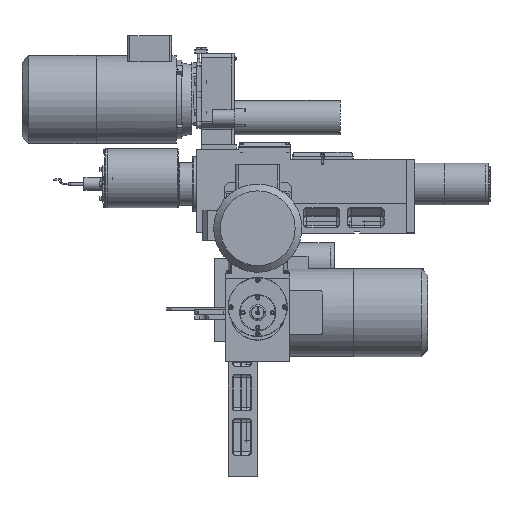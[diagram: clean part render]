
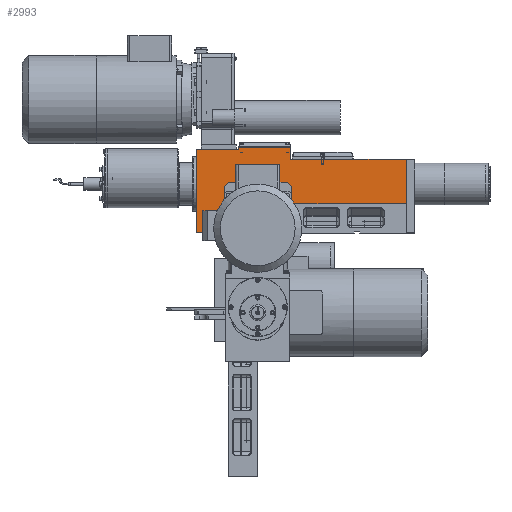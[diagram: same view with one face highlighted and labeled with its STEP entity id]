
A CAD part, front view. The second image highlights one B-rep face of the part: STEP entity #2993.
In plain terms, the highlighted planar face has unit normal (0, -1, 0).
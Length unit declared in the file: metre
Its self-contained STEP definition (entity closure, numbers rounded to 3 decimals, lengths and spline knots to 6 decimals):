
#2993 = ADVANCED_FACE( '', ( #4743 ), #4744, .T. );
#4743 = FACE_OUTER_BOUND( '', #9010, .T. );
#4744 = PLANE( '', #9011 );
#9010 = EDGE_LOOP( '', ( #14669, #14670, #14671, #14672, #14673, #14674, #14675, #14676, #14677, #14678 ) );
#9011 = AXIS2_PLACEMENT_3D( '', #14679, #14680, #14681 );
#14669 = ORIENTED_EDGE( '', *, *, #18904, .T. );
#14670 = ORIENTED_EDGE( '', *, *, #18905, .T. );
#14671 = ORIENTED_EDGE( '', *, *, #18906, .F. );
#14672 = ORIENTED_EDGE( '', *, *, #18907, .T. );
#14673 = ORIENTED_EDGE( '', *, *, #18908, .T. );
#14674 = ORIENTED_EDGE( '', *, *, #18895, .T. );
#14675 = ORIENTED_EDGE( '', *, *, #18909, .T. );
#14676 = ORIENTED_EDGE( '', *, *, #18887, .T. );
#14677 = ORIENTED_EDGE( '', *, *, #18910, .T. );
#14678 = ORIENTED_EDGE( '', *, *, #18911, .T. );
#14679 = CARTESIAN_POINT( '', ( 0.337, -0.003889, 0. ) );
#14680 = DIRECTION( '', ( 0., -1., 0. ) );
#14681 = DIRECTION( '', ( 1., 0., 0. ) );
#18887 = EDGE_CURVE( '', #21667, #21665, #21668, .T. );
#18895 = EDGE_CURVE( '', #21682, #21680, #21683, .T. );
#18904 = EDGE_CURVE( '', #21697, #21698, #21699, .T. );
#18905 = EDGE_CURVE( '', #21698, #21700, #21701, .T. );
#18906 = EDGE_CURVE( '', #21702, #21700, #21703, .T. );
#18907 = EDGE_CURVE( '', #21702, #21704, #21705, .T. );
#18908 = EDGE_CURVE( '', #21704, #21682, #21706, .T. );
#18909 = EDGE_CURVE( '', #21680, #21667, #21707, .T. );
#18910 = EDGE_CURVE( '', #21665, #21708, #21709, .T. );
#18911 = EDGE_CURVE( '', #21708, #21697, #21710, .T. );
#21665 = VERTEX_POINT( '', #27221 );
#21667 = VERTEX_POINT( '', #27224 );
#21668 = LINE( '', #27225, #27226 );
#21680 = VERTEX_POINT( '', #27244 );
#21682 = VERTEX_POINT( '', #27247 );
#21683 = LINE( '', #27248, #27249 );
#21697 = VERTEX_POINT( '', #27271 );
#21698 = VERTEX_POINT( '', #27272 );
#21699 = LINE( '', #27273, #27274 );
#21700 = VERTEX_POINT( '', #27275 );
#21701 = LINE( '', #27276, #27277 );
#21702 = VERTEX_POINT( '', #27278 );
#21703 = LINE( '', #27279, #27280 );
#21704 = VERTEX_POINT( '', #27281 );
#21705 = LINE( '', #27282, #27283 );
#21706 = LINE( '', #27284, #27285 );
#21707 = LINE( '', #27286, #27287 );
#21708 = VERTEX_POINT( '', #27288 );
#21709 = LINE( '', #27289, #27290 );
#21710 = LINE( '', #27291, #27292 );
#27221 = CARTESIAN_POINT( '', ( 0.102, -0.003889, 0.115 ) );
#27224 = CARTESIAN_POINT( '', ( 0.102, -0.003889, 0.09 ) );
#27225 = CARTESIAN_POINT( '', ( 0.102, -0.003889, 0.09 ) );
#27226 = VECTOR( '', #31181, 1. );
#27244 = CARTESIAN_POINT( '', ( 0.337, -0.003889, 0.09 ) );
#27247 = CARTESIAN_POINT( '', ( 0.337, -0.003889, 0. ) );
#27248 = CARTESIAN_POINT( '', ( 0.337, -0.003889, 0. ) );
#27249 = VECTOR( '', #31189, 1. );
#27271 = CARTESIAN_POINT( '', ( -0.003, -0.003889, 0.11 ) );
#27272 = CARTESIAN_POINT( '', ( -0.088, -0.003889, 0.11 ) );
#27273 = CARTESIAN_POINT( '', ( 0.14575, -0.003889, 0.11 ) );
#27274 = VECTOR( '', #31198, 1. );
#27275 = CARTESIAN_POINT( '', ( -0.088, -0.003889, -0.059 ) );
#27276 = CARTESIAN_POINT( '', ( -0.088, -0.003889, -0.059 ) );
#27277 = VECTOR( '', #31199, 1. );
#27278 = CARTESIAN_POINT( '', ( -0.005, -0.003889, -0.059 ) );
#27279 = CARTESIAN_POINT( '', ( -0.005, -0.003889, -0.059 ) );
#27280 = VECTOR( '', #31200, 1. );
#27281 = CARTESIAN_POINT( '', ( -0.005, -0.003889, 0. ) );
#27282 = CARTESIAN_POINT( '', ( -0.005, -0.003889, -0.059 ) );
#27283 = VECTOR( '', #31201, 1. );
#27284 = CARTESIAN_POINT( '', ( -0.005, -0.003889, 0. ) );
#27285 = VECTOR( '', #31202, 1. );
#27286 = CARTESIAN_POINT( '', ( -0.005, -0.003889, 0.09 ) );
#27287 = VECTOR( '', #31203, 1. );
#27288 = CARTESIAN_POINT( '', ( -0.003, -0.003889, 0.115 ) );
#27289 = CARTESIAN_POINT( '', ( -0.005, -0.003889, 0.115 ) );
#27290 = VECTOR( '', #31204, 1. );
#27291 = CARTESIAN_POINT( '', ( -0.003, -0.003889, 0.058735 ) );
#27292 = VECTOR( '', #31205, 1. );
#31181 = DIRECTION( '', ( 0., 0., 1. ) );
#31189 = DIRECTION( '', ( 0., 0., 1. ) );
#31198 = DIRECTION( '', ( -1., 0., 0. ) );
#31199 = DIRECTION( '', ( 0., 0., -1. ) );
#31200 = DIRECTION( '', ( -1., 0., 0. ) );
#31201 = DIRECTION( '', ( 0., 0., 1. ) );
#31202 = DIRECTION( '', ( 1., 0., 0. ) );
#31203 = DIRECTION( '', ( -1., 0., 0. ) );
#31204 = DIRECTION( '', ( -1., 0., 0. ) );
#31205 = DIRECTION( '', ( 0., 0., -1. ) );
